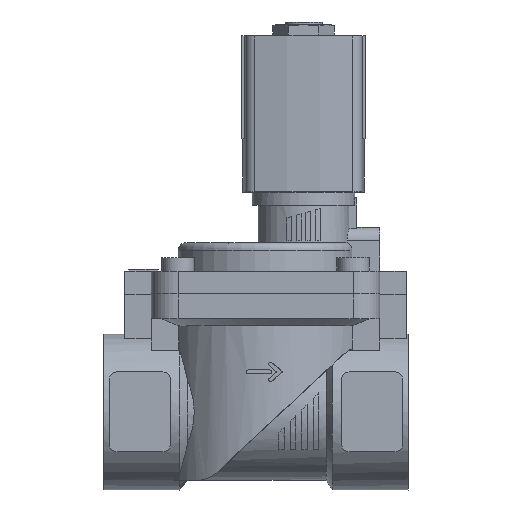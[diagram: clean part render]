
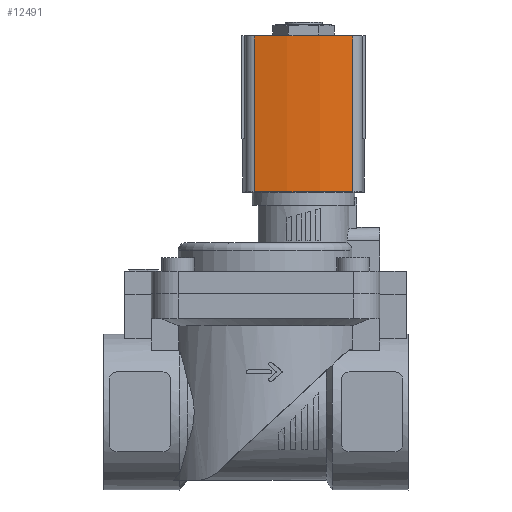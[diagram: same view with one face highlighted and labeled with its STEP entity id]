
A CAD part, top view. The second image highlights one B-rep face of the part: STEP entity #12491.
In plain terms, the highlighted cylindrical face has radius 60 mm (diameter 120 mm), a partial arc.
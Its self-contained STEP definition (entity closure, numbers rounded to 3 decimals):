
#238=CYLINDRICAL_SURFACE('',#13341,60.);
#1211=LINE('',#19129,#2269);
#1212=LINE('',#19133,#2270);
#2269=VECTOR('',#15832,1000.);
#2270=VECTOR('',#15837,1000.);
#4578=ORIENTED_EDGE('',*,*,#6567,.T.);
#4579=ORIENTED_EDGE('',*,*,#6568,.F.);
#4580=ORIENTED_EDGE('',*,*,#5853,.F.);
#4581=ORIENTED_EDGE('',*,*,#6566,.T.);
#5853=EDGE_CURVE('',#7096,#7097,#7818,.T.);
#6566=EDGE_CURVE('',#7096,#7602,#1211,.T.);
#6567=EDGE_CURVE('',#7602,#7603,#7912,.T.);
#6568=EDGE_CURVE('',#7097,#7603,#1212,.T.);
#7096=VERTEX_POINT('',#17783);
#7097=VERTEX_POINT('',#17785);
#7602=VERTEX_POINT('',#19128);
#7603=VERTEX_POINT('',#19132);
#7818=CIRCLE('',#13121,60.);
#7912=CIRCLE('',#13342,60.);
#8340=EDGE_LOOP('',(#4578,#4579,#4580,#4581));
#8923=FACE_BOUND('',#8340,.T.);
#12491=ADVANCED_FACE('',(#8923),#238,.T.);
#13121=AXIS2_PLACEMENT_3D('',#17784,#14773,#14774);
#13341=AXIS2_PLACEMENT_3D('',#19130,#15833,#15834);
#13342=AXIS2_PLACEMENT_3D('',#19131,#15835,#15836);
#14773=DIRECTION('',(0.,1.,0.));
#14774=DIRECTION('',(1.,0.,0.));
#15832=DIRECTION('',(0.,-1.,0.));
#15833=DIRECTION('',(0.,-1.,0.));
#15834=DIRECTION('',(0.,0.,-1.));
#15835=DIRECTION('',(0.,1.,0.));
#15836=DIRECTION('',(1.,0.,0.));
#15837=DIRECTION('',(0.,-1.,0.));
#17783=CARTESIAN_POINT('',(19.078,15.,12.986));
#17784=CARTESIAN_POINT('',(-39.5,15.,0.));
#17785=CARTESIAN_POINT('',(19.078,15.,-12.986));
#19128=CARTESIAN_POINT('',(19.078,-26.,12.986));
#19129=CARTESIAN_POINT('',(19.078,15.,12.986));
#19130=CARTESIAN_POINT('',(-39.5,15.,0.));
#19131=CARTESIAN_POINT('',(-39.5,-26.,0.));
#19132=CARTESIAN_POINT('',(19.078,-26.,-12.986));
#19133=CARTESIAN_POINT('',(19.078,15.,-12.986));
